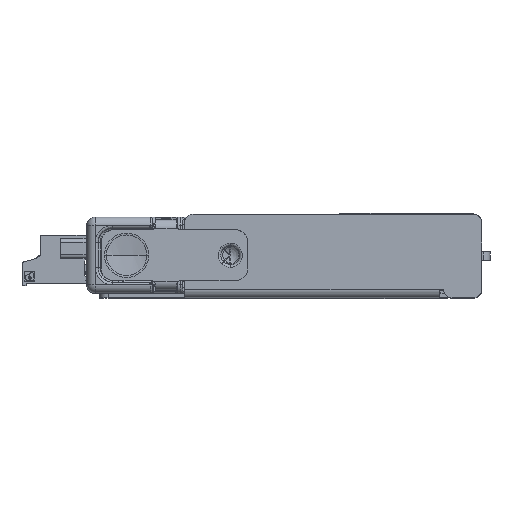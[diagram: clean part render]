
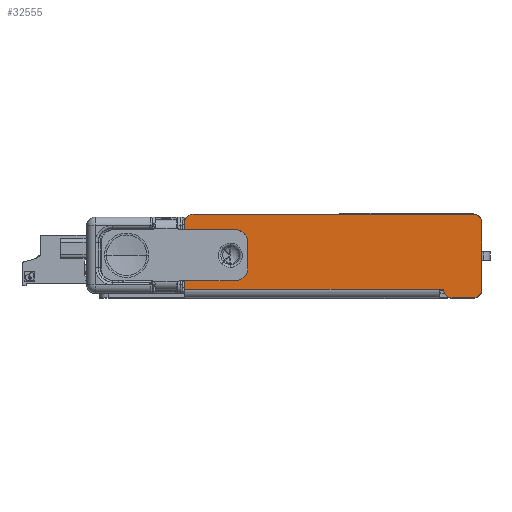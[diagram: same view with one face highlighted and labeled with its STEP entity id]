
A CAD part, top view. The second image highlights one B-rep face of the part: STEP entity #32555.
In plain terms, the highlighted planar face has unit normal (0.001, 0, 1).
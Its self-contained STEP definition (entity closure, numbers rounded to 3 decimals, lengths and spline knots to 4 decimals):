
#622=DIRECTION('',(1.,0.,-0.001));
#623=VECTOR('',#622,0.5964);
#624=CARTESIAN_POINT('',(-2.6112,-0.1825,0.0613));
#625=LINE('',#624,#623);
#626=DIRECTION('',(0.,1.,0.));
#627=VECTOR('',#626,0.7875);
#628=CARTESIAN_POINT('',(0.8978,-0.8875,0.0593));
#629=LINE('',#628,#627);
#630=DIRECTION('',(1.,0.,-0.001));
#631=VECTOR('',#630,0.25);
#632=CARTESIAN_POINT('',(0.5478,-0.9875,0.0595));
#633=LINE('',#632,#631);
#634=DIRECTION('',(1.,0.,-0.001));
#635=VECTOR('',#634,0.05);
#636=CARTESIAN_POINT('',(0.3978,-0.8875,0.0595));
#637=LINE('',#636,#635);
#638=DIRECTION('',(1.,0.,-0.001));
#639=VECTOR('',#638,0.5964);
#640=CARTESIAN_POINT('',(-2.6112,-0.7825,0.0613));
#641=LINE('',#640,#639);
#642=CARTESIAN_POINT('',(-1.8648,-0.6325,0.0609));
#643=CARTESIAN_POINT('',(-1.8648,-0.645,
0.0609));
#644=CARTESIAN_POINT('',(-1.8677,-0.667,
0.0609));
#645=CARTESIAN_POINT('',(-1.8774,-0.6949,
0.0609));
#646=CARTESIAN_POINT('',(-1.8911,-0.7187,
0.0609));
#647=CARTESIAN_POINT('',(-1.9082,-0.7391,
0.0609));
#648=CARTESIAN_POINT('',(-1.9286,-0.7562,
0.0609));
#649=CARTESIAN_POINT('',(-1.9524,-0.7699,
0.0609));
#650=CARTESIAN_POINT('',(-1.9803,-0.7795,
0.0609));
#651=CARTESIAN_POINT('',(-2.0023,-0.7825,0.061));
#652=CARTESIAN_POINT('',(-2.0148,-0.7825,0.061));
#654=DIRECTION('',(0.,1.,0.));
#655=VECTOR('',#654,0.3);
#656=CARTESIAN_POINT('',(-1.8648,-0.6325,0.0609));
#657=LINE('',#656,#655);
#658=CARTESIAN_POINT('',(-2.0148,-0.1825,0.061));
#659=CARTESIAN_POINT('',(-2.0023,-0.1825,0.061));
#660=CARTESIAN_POINT('',(-1.9803,-0.1855,
0.0609));
#661=CARTESIAN_POINT('',(-1.9524,-0.1951,
0.0609));
#662=CARTESIAN_POINT('',(-1.9286,-0.2088,
0.0609));
#663=CARTESIAN_POINT('',(-1.9082,-0.2259,
0.0609));
#664=CARTESIAN_POINT('',(-1.8911,-0.2463,
0.0609));
#665=CARTESIAN_POINT('',(-1.8774,-0.2701,
0.0609));
#666=CARTESIAN_POINT('',(-1.8677,-0.298,
0.0609));
#667=CARTESIAN_POINT('',(-1.8648,-0.32,
0.0609));
#668=CARTESIAN_POINT('',(-1.8648,-0.3325,0.0609));
#1741=DIRECTION('',(0.,-1.,0.));
#1742=VECTOR('',#1741,0.0825);
#1743=CARTESIAN_POINT('',(-2.6112,-0.1,
0.0613));
#1744=LINE('',#1743,#1742);
#1925=DIRECTION('',(0.,-1.,0.));
#1926=VECTOR('',#1925,0.105);
#1927=CARTESIAN_POINT('',(-2.6112,-0.7825,0.0613));
#1928=LINE('',#1927,#1926);
#1951=DIRECTION('',(-1.,0.,0.001));
#1952=VECTOR('',#1951,3.009);
#1953=CARTESIAN_POINT('',(0.3978,-0.8875,0.0595));
#1954=LINE('',#1953,#1952);
#3462=CARTESIAN_POINT('',(0.5478,-0.8875,0.0595));
#3463=DIRECTION('',(0.001,0.,1.));
#3464=DIRECTION('',(-1.,0.,0.001));
#3465=AXIS2_PLACEMENT_3D('',#3462,#3463,#3464);
#3568=CARTESIAN_POINT('',(0.7978,-0.8875,0.0593));
#3569=DIRECTION('',(0.001,0.,1.));
#3570=DIRECTION('',(0.,-1.,0.));
#3571=AXIS2_PLACEMENT_3D('',#3568,#3569,#3570);
#3651=CARTESIAN_POINT('',(0.7978,-0.1,
0.0593));
#3652=DIRECTION('',(0.001,0.,1.));
#3653=DIRECTION('',(1.,0.,-0.001));
#3654=AXIS2_PLACEMENT_3D('',#3651,#3652,#3653);
#3682=DIRECTION('',(-1.,0.,0.001));
#3683=VECTOR('',#3682,3.309);
#3684=CARTESIAN_POINT('',(0.7978,0.,
0.0593));
#3685=LINE('',#3684,#3683);
#3697=CARTESIAN_POINT('',(-2.6112,-0.1,
0.0613));
#3708=CARTESIAN_POINT('',(-2.5112,-0.1,
0.0613));
#3709=DIRECTION('',(0.001,0.,1.));
#3710=DIRECTION('',(0.,1.,0.));
#3711=AXIS2_PLACEMENT_3D('',#3708,#3709,#3710);
#27792=CARTESIAN_POINT('',(0.3978,-0.8875,0.0595));
#27794=VERTEX_POINT('',#27792);
#27800=CARTESIAN_POINT('',(-2.6112,-0.8875,0.0613));
#27802=VERTEX_POINT('',#27800);
#27860=VERTEX_POINT('',#3697);
#27863=CARTESIAN_POINT('',(-2.5112,0.,
0.0613));
#27864=VERTEX_POINT('',#27863);
#27865=CARTESIAN_POINT('',(0.8978,-0.1,
0.0593));
#27866=CARTESIAN_POINT('',(0.7978,0.,
0.0593));
#27867=VERTEX_POINT('',#27865);
#27868=VERTEX_POINT('',#27866);
#27870=CARTESIAN_POINT('',(0.7978,-0.9875,0.0593));
#27872=VERTEX_POINT('',#27870);
#27873=CARTESIAN_POINT('',(0.8978,-0.8875,0.0593));
#27874=VERTEX_POINT('',#27873);
#27952=CARTESIAN_POINT('',(0.5478,-0.9875,0.0595));
#27954=VERTEX_POINT('',#27952);
#27956=CARTESIAN_POINT('',(0.4478,-0.8875,0.0595));
#27958=VERTEX_POINT('',#27956);
#30142=CARTESIAN_POINT('',(-2.6112,-0.1825,0.0613));
#30143=CARTESIAN_POINT('',(-2.0148,-0.1825,0.061));
#30144=VERTEX_POINT('',#30142);
#30145=VERTEX_POINT('',#30143);
#30146=CARTESIAN_POINT('',(-2.6112,-0.7825,0.0613));
#30147=CARTESIAN_POINT('',(-2.0148,-0.7825,0.061));
#30148=VERTEX_POINT('',#30146);
#30149=VERTEX_POINT('',#30147);
#30150=CARTESIAN_POINT('',(-1.8648,-0.6325,0.0609));
#30151=CARTESIAN_POINT('',(-1.8648,-0.3325,0.0609));
#30152=VERTEX_POINT('',#30150);
#30153=VERTEX_POINT('',#30151);
#32517=CARTESIAN_POINT('',(0.3978,0.,
0.0595));
#32518=DIRECTION('',(0.001,0.,1.));
#32519=DIRECTION('',(0.,-1.,0.));
#32520=AXIS2_PLACEMENT_3D('',#32517,#32518,#32519);
#32521=PLANE('',#32520);
#32523=ORIENTED_EDGE('',*,*,#32522,.F.);
#32525=ORIENTED_EDGE('',*,*,#32524,.F.);
#32527=ORIENTED_EDGE('',*,*,#32526,.F.);
#32529=ORIENTED_EDGE('',*,*,#32528,.F.);
#32531=ORIENTED_EDGE('',*,*,#32530,.F.);
#32533=ORIENTED_EDGE('',*,*,#32532,.F.);
#32535=ORIENTED_EDGE('',*,*,#32534,.F.);
#32537=ORIENTED_EDGE('',*,*,#32536,.F.);
#32539=ORIENTED_EDGE('',*,*,#32538,.F.);
#32541=ORIENTED_EDGE('',*,*,#32540,.F.);
#32543=ORIENTED_EDGE('',*,*,#32542,.T.);
#32545=ORIENTED_EDGE('',*,*,#32544,.F.);
#32546=ORIENTED_EDGE('',*,*,#32502,.T.);
#32548=ORIENTED_EDGE('',*,*,#32547,.F.);
#32550=ORIENTED_EDGE('',*,*,#32549,.T.);
#32552=ORIENTED_EDGE('',*,*,#32551,.F.);
#32553=EDGE_LOOP('',(#32523,#32525,#32527,#32529,#32531,#32533,#32535,#32537,
#32539,#32541,#32543,#32545,#32546,#32548,#32550,#32552));
#32554=FACE_OUTER_BOUND('',#32553,.F.);
#32555=ADVANCED_FACE('',(#32554),#32521,.T.);
#653=B_SPLINE_CURVE_WITH_KNOTS('',3,(#642,#643,#644,#645,#646,#647,#648,#649,
#650,#651,#652),.UNSPECIFIED.,.F.,.F.,(4,1,1,1,1,1,1,1,4),(0.,0.125,0.25,
0.375,0.5,0.625,0.75,0.875,1.),.UNSPECIFIED.);
#669=B_SPLINE_CURVE_WITH_KNOTS('',3,(#658,#659,#660,#661,#662,#663,#664,#665,
#666,#667,#668),.UNSPECIFIED.,.F.,.F.,(4,1,1,1,1,1,1,1,4),(0.,0.125,0.25,
0.375,0.5,0.625,0.75,0.875,1.),.UNSPECIFIED.);
#3466=CIRCLE('',#3465,0.1);
#3572=CIRCLE('',#3571,0.1);
#3655=CIRCLE('',#3654,0.1);
#3712=CIRCLE('',#3711,0.1);
#32502=EDGE_CURVE('',#30148,#30149,#641,.T.);
#32522=EDGE_CURVE('',#30144,#30145,#625,.T.);
#32524=EDGE_CURVE('',#27860,#30144,#1744,.T.);
#32526=EDGE_CURVE('',#27864,#27860,#3712,.T.);
#32528=EDGE_CURVE('',#27868,#27864,#3685,.T.);
#32530=EDGE_CURVE('',#27867,#27868,#3655,.T.);
#32532=EDGE_CURVE('',#27874,#27867,#629,.T.);
#32534=EDGE_CURVE('',#27872,#27874,#3572,.T.);
#32536=EDGE_CURVE('',#27954,#27872,#633,.T.);
#32538=EDGE_CURVE('',#27958,#27954,#3466,.T.);
#32540=EDGE_CURVE('',#27794,#27958,#637,.T.);
#32542=EDGE_CURVE('',#27794,#27802,#1954,.T.);
#32544=EDGE_CURVE('',#30148,#27802,#1928,.T.);
#32547=EDGE_CURVE('',#30152,#30149,#653,.T.);
#32549=EDGE_CURVE('',#30152,#30153,#657,.T.);
#32551=EDGE_CURVE('',#30145,#30153,#669,.T.);
